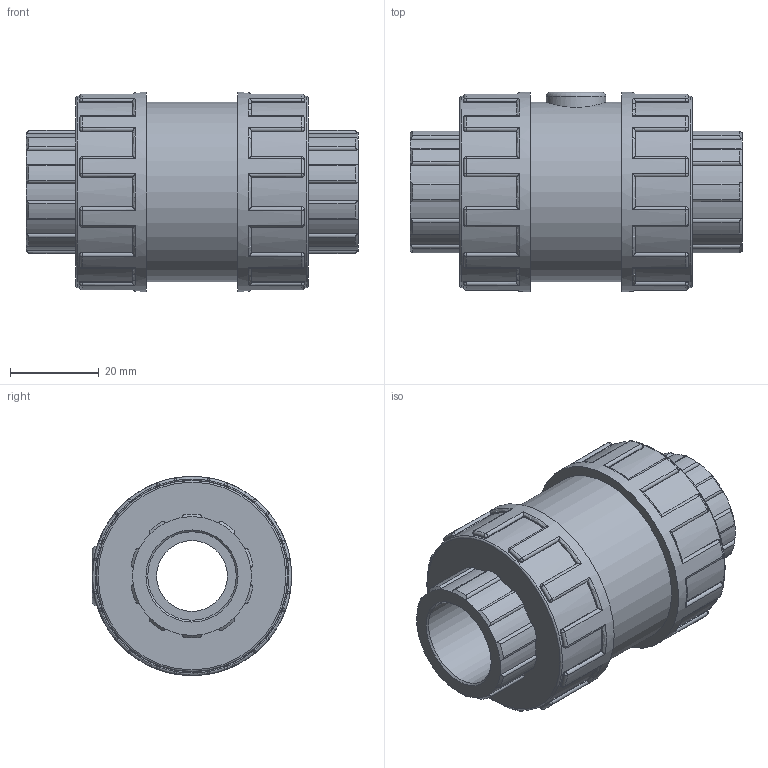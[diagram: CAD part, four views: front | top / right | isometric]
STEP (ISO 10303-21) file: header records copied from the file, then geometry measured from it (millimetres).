
FILE_DESCRIPTION(/* description */ ('PLASSON FOOT VALVE CEM PVC 20'),/* implementation_level */ '2;1');
FILE_NAME(/* name */ 'C:\Dropbox\KIMPROJECTS-Inventor\99-16-3568-Processing\PVC Catalog 2017\116400 - 116000\116400020.ipt.stp',/* time_stamp */ '2017-12-07T16:14:02+02:00',/* author */ ('KIM'),/* organization */ (''),/* preprocessor_version */ 'ST-DEVELOPER v15.6',/* originating_system */ 'Autodesk Inventor 2015',/* authorisation */ '');
FILE_SCHEMA (('AUTOMOTIVE_DESIGN { 1 0 10303 214 3 1 1 }'));
Length unit declared in the file: millimetre
Products named in the file (1): 116400020
Bounding box: 75 x 45 x 45 mm (x, y, z)
Volume: 70187.9 mm3; surface area: 16986.8 mm2
Topology: 1 solids, 1 shells, 411 faces, 1021 edges, 618 vertices
Faces by surface type: cylinder 185, plane 105, torus 51, sphere 48, cone 22
Full cylindrical faces by diameter (mm): 13.5 x1, 16 x1, 20 x2, 40.5 x1, 43.2 x2, 45 x2
Entity records: 13378 total; most frequent: CARTESIAN_POINT 3599, DIRECTION 2180, ORIENTED_EDGE 1998, EDGE_CURVE 999, AXIS2_PLACEMENT_3D 906, VERTEX_POINT 611, CIRCLE 494, EDGE_LOOP 434
